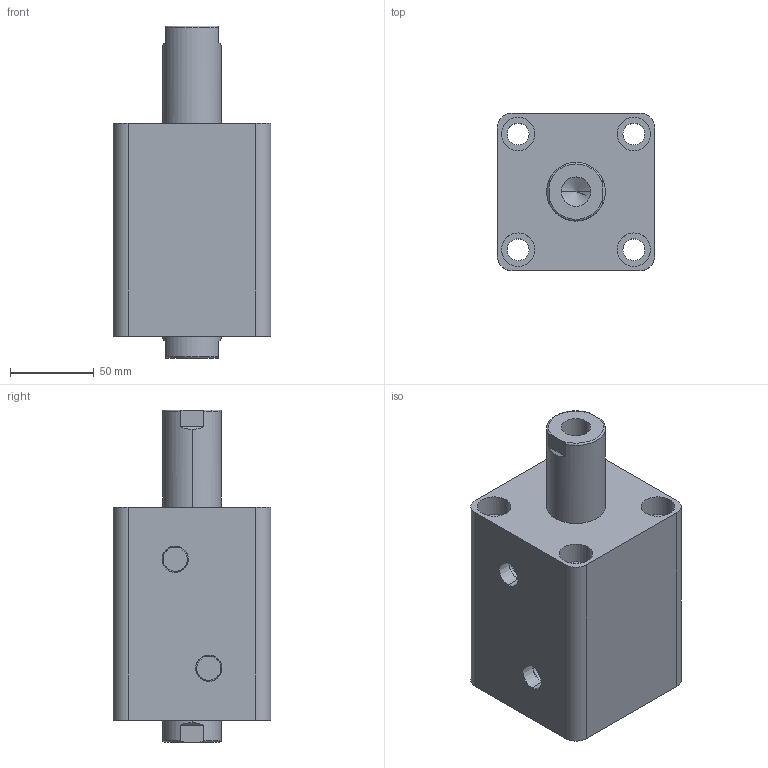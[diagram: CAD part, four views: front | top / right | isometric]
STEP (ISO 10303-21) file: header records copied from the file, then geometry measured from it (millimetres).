
FILE_DESCRIPTION (( 'STEP AP203' ), '1' );
FILE_NAME ('HTB-SW63-45N.STEP', '2019-10-07T10:05:01', ( '微软用户' ), ( '微软中国' ), 'SwSTEP 2.0', 'SolidWorks 2012', '' );
FILE_SCHEMA (( 'CONFIG_CONTROL_DESIGN' ));
Length unit declared in the file: millimetre
Products named in the file (3): HTB-SW63-45N; HTB-SW63-45N活塞杆; HTB-SW63-45掛极
Assembly tree (2 placements, depth 2):
  HTB-SW63-45N
    HTB-SW63-45掛极
    HTB-SW63-45N活塞杆
Bounding box: 94 x 94 x 198 mm (x, y, z)
Volume: 983567.8 mm3; surface area: 139975.2 mm2
Topology: 2 solids, 2 shells, 100 faces, 228 edges, 146 vertices
Faces by surface type: cylinder 48, plane 32, torus 12, cone 8
Entity records: 3253 total; most frequent: CARTESIAN_POINT 611, DIRECTION 542, ORIENTED_EDGE 448, AXIS2_PLACEMENT_3D 229, EDGE_CURVE 224, VERTEX_POINT 146, EDGE_LOOP 128, CIRCLE 124
